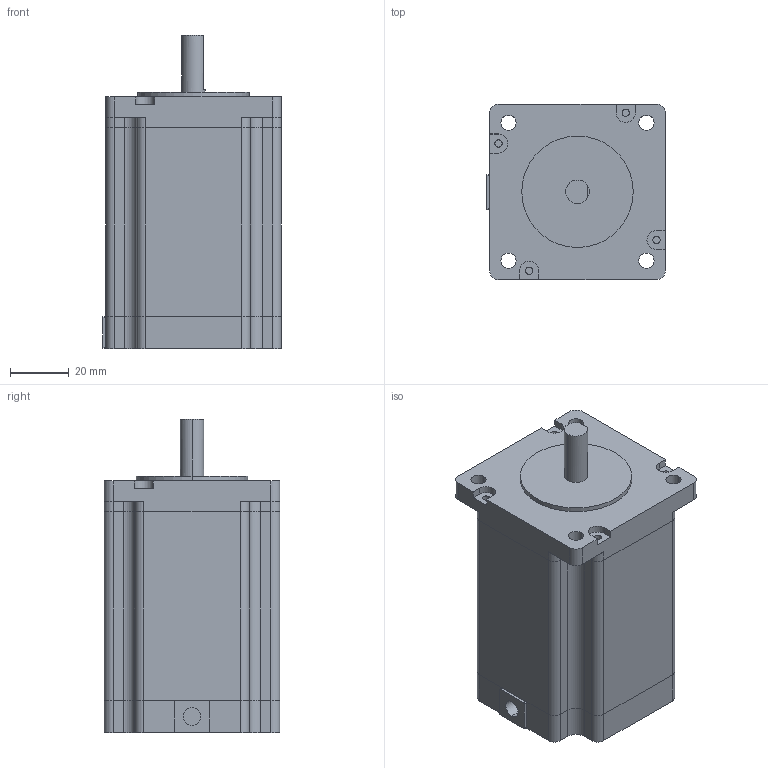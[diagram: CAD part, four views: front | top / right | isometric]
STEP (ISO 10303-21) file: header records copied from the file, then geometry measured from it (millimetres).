
FILE_DESCRIPTION((''),'2;1');
FILE_NAME('ABCD0E94C2B2YBL3_1_1_1','2021-11-12T10:17:01',('qingl'),(''),'CREO PARAMETRIC BY PTC INC, 2019224','CREO PARAMETRIC BY PTC INC, 2019224','');
FILE_SCHEMA(('CONFIG_CONTROL_DESIGN'));
Length unit declared in the file: millimetre
Products named in the file (1): ABCD0E94C2B2YBL3_1_1_1
Bounding box: 61 x 60 x 107 mm (x, y, z)
Volume: 275466.6 mm3; surface area: 30503.4 mm2
Topology: 1 solids, 2 shells, 275 faces, 723 edges, 467 vertices
Faces by surface type: cylinder 186, plane 81, bspline 8
Entity records: 12057 total; most frequent: CARTESIAN_POINT 5536, ORIENTED_EDGE 1446, DIRECTION 1198, EDGE_CURVE 723, VERTEX_POINT 467, AXIS2_PLACEMENT_3D 428, VECTOR 342, LINE 342
